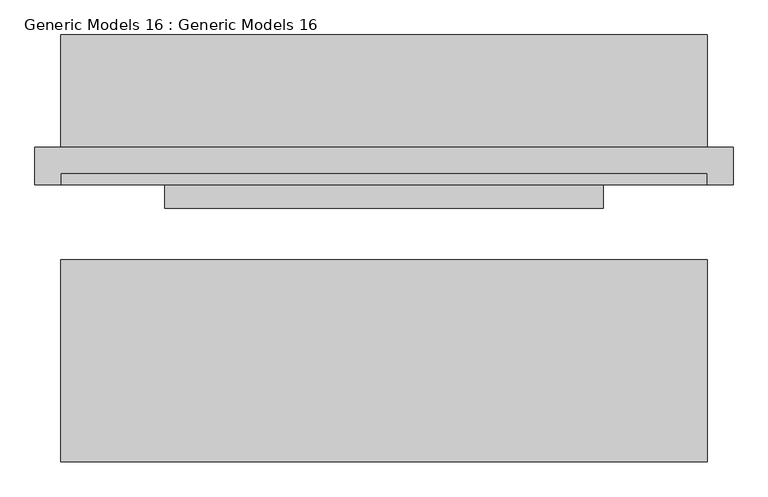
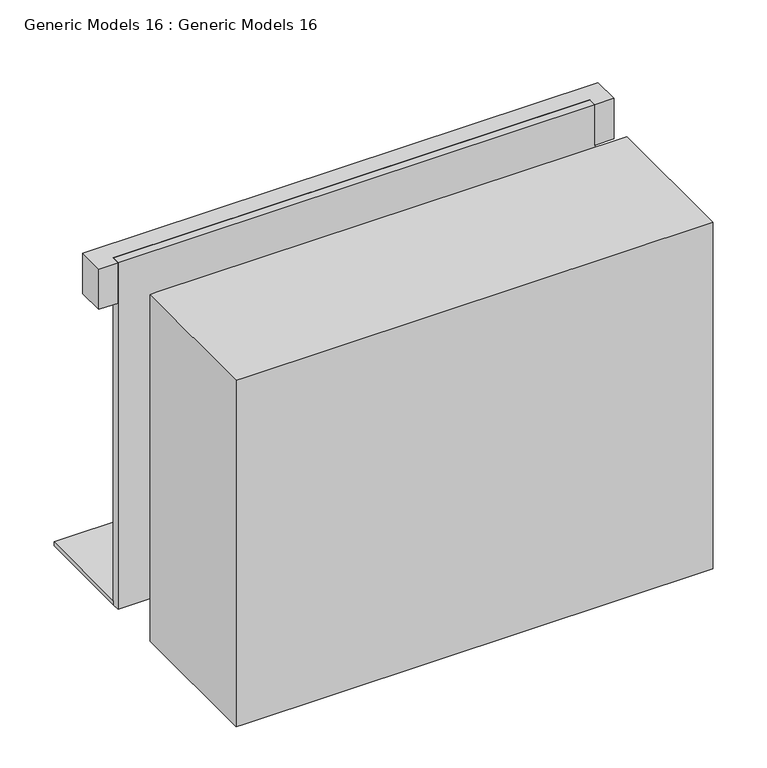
"""IFC4 building model written with IfcOpenShell, lengths in millimetres: proxy geometry, Generic Models 16 : Generic Models 16."""

import ifcopenshell
import ifcopenshell.guid

model = None  # the IFC model being written
_history = None  # IfcOwnerHistory: only IFC2X3 demands one
_inside = {}  # id of a spatial element -> (the spatial element, [elements in it])
_under = {}  # id of a project, library or spatial element -> (it, [spatial elements below it])
_declared = {}  # id of a project -> (the project, [libraries it declares])
_typed = {}  # id of a type object -> (the type object, [elements of that type])
_made_of = {}  # id of a material, layer set ... -> (it, [elements and type objects made of it])


def new_model(schema):
    """Start an empty IFC model of exactly this schema.

    Asked for "IFC4X3", IfcOpenShell would pick the latest addendum, in which some entities
    have other attributes; the version numbers below select the first issue.
    IFC2X3 requires an IfcOwnerHistory on every rooted entity: one is made here for all.
    """
    global model, _history
    if schema == "IFC4X3":
        model = ifcopenshell.file(schema_version=(4, 3, 0, 0))
    else:
        model = ifcopenshell.file(schema=schema)
    _inside.clear()
    _under.clear()
    _declared.clear()
    _typed.clear()
    _made_of.clear()
    _history = None
    if model.schema == "IFC2X3":
        org = make("IfcOrganization", Name="unknown")
        user = make(
            "IfcPersonAndOrganization",
            ThePerson=make("IfcPerson", FamilyName="unknown"),
            TheOrganization=org,
        )
        app = make(
            "IfcApplication",
            ApplicationDeveloper=org,
            Version="unknown",
            ApplicationFullName="unknown",
            ApplicationIdentifier="unknown",
        )
        _history = make(
            "IfcOwnerHistory",
            OwningUser=user,
            OwningApplication=app,
            ChangeAction="ADDED",
            CreationDate=0,
        )
    return model


def make(cls, **values):
    """One entity of the class cls with the attributes given. An attribute that is None is left unset."""
    return model.create_entity(
        cls, **{name: value for name, value in values.items() if value is not None}
    )


def rooted(cls, **values):
    """An entity with a GlobalId (a new one), such as an element, a storey or a relation."""
    return make(cls, GlobalId=ifcopenshell.guid.new(), OwnerHistory=_history, **values)


def si_unit(unit_type, name, prefix=None):
    """IfcSIUnit, for example si_unit("LENGTHUNIT", "METRE", prefix="MILLI")."""
    return make("IfcSIUnit", UnitType=unit_type, Prefix=prefix, Name=name)


def assignment(units):
    """IfcUnitAssignment: the units of a project."""
    return None if units is None else make("IfcUnitAssignment", Units=units)


def point(xyz):
    """IfcCartesianPoint."""
    return None if xyz is None else make("IfcCartesianPoint", Coordinates=xyz)


def direction(xyz):
    """IfcDirection."""
    return None if xyz is None else make("IfcDirection", DirectionRatios=xyz)


def frame(location, z_axis=None, x_axis=None):
    """IfcAxis2Placement3D, a coordinate frame: its origin and axes. An axis left out is left unset."""
    return make(
        "IfcAxis2Placement3D",
        Location=point(location),
        Axis=direction(z_axis),
        RefDirection=direction(x_axis),
    )


def origin():
    """The frame at (0, 0, 0) with its axes left unset."""
    return frame((0.0, 0.0, 0.0))


def place(relative_to, where):
    """IfcLocalPlacement: puts the frame where relative to a parent placement (None: the world)."""
    return make(
        "IfcLocalPlacement", PlacementRelTo=relative_to, RelativePlacement=where
    )


def context(
    kind, dimensions, precision=None, world=None, true_north=None, identifier=None
):
    """IfcGeometricRepresentationContext, for example the 3D "Model" context."""
    return make(
        "IfcGeometricRepresentationContext",
        ContextIdentifier=identifier,
        ContextType=kind,
        CoordinateSpaceDimension=dimensions,
        Precision=precision,
        WorldCoordinateSystem=world,
        TrueNorth=true_north,
    )


def project(units=None, contexts=None):
    """IfcProject with its units and contexts."""
    return rooted(
        "IfcProject",
        Name="project",
        RepresentationContexts=contexts,
        UnitsInContext=assignment(units),
    )


def spatial(cls, under=None, at=None, **own):
    """A site, building, storey or space (cls), placed at a placement, below another one or the project."""
    s = rooted(cls, ObjectPlacement=at, **own)
    if under is not None:
        _under.setdefault(under.id(), (under, []))[1].append(s)
    return s


def polyline(points):
    """IfcPolyline through the points."""
    return make("IfcPolyline", Points=[point(p) for p in points])


def outline(outer, holes=None, kind="AREA"):
    """IfcArbitraryClosedProfileDef: a profile drawn as a closed curve; with holes, ...WithVoids."""
    if holes is None:
        return make("IfcArbitraryClosedProfileDef", ProfileType=kind, OuterCurve=outer)
    return make(
        "IfcArbitraryProfileDefWithVoids",
        ProfileType=kind,
        OuterCurve=outer,
        InnerCurves=holes,
    )


def extrude(swept, where, along, depth):
    """IfcExtrudedAreaSolid: the profile swept, set in the frame where, extruded along a direction by depth."""
    return make(
        "IfcExtrudedAreaSolid",
        SweptArea=swept,
        Position=where,
        ExtrudedDirection=direction(along),
        Depth=depth,
    )


def faces_of(points, faces, orient=None, outer=None):
    """IfcFace entities. A face is a list of loops; a loop is a list of indices into points, from 0.

    orient and outer hold one flag for each loop. By default every Orientation is true, the
    first loop of a face is its IfcFaceOuterBound and the others are IfcFaceBound.
    """
    made = []
    for i, loops in enumerate(faces):
        bounds = []
        for j, loop in enumerate(loops):
            is_outer = j == 0 if outer is None else outer[i][j]
            bounds.append(
                make(
                    "IfcFaceOuterBound" if is_outer else "IfcFaceBound",
                    Bound=make("IfcPolyLoop", Polygon=[points[k] for k in loop]),
                    Orientation=True if orient is None else orient[i][j],
                )
            )
        made.append(make("IfcFace", Bounds=bounds))
    return made


def faceted_brep(points, faces, orient=None, outer=None, voids=None):
    """IfcFacetedBrep: a solid bounded by flat faces; with voids (closed shells), ...WithVoids."""
    shared = [point(p) for p in points]
    hull = make("IfcClosedShell", CfsFaces=faces_of(shared, faces, orient, outer))
    if voids is None:
        return make("IfcFacetedBrep", Outer=hull)
    return make(
        "IfcFacetedBrepWithVoids",
        Outer=hull,
        Voids=[
            make(cls, CfsFaces=faces_of(shared, fs, o, b)) for cls, fs, o, b in voids
        ],
    )


def shape(context_of_items, identifier, shape_type, items):
    """IfcShapeRepresentation: the items that make up one representation, for example the "Body"."""
    return make(
        "IfcShapeRepresentation",
        ContextOfItems=context_of_items,
        RepresentationIdentifier=identifier,
        RepresentationType=shape_type,
        Items=items,
    )


def source(mapping_origin, context_of_items, identifier, shape_type, items):
    """IfcRepresentationMap: a shape defined once, which mapped items show again and again."""
    return make(
        "IfcRepresentationMap",
        MappingOrigin=mapping_origin,
        MappedRepresentation=shape(context_of_items, identifier, shape_type, items),
    )


def transform(
    local_origin,
    x_axis=None,
    y_axis=None,
    z_axis=None,
    scale=None,
    scale2=None,
    scale3=None,
    uniform=True,
):
    """IfcCartesianTransformationOperator3D, or its non-uniform kind. x_axis, y_axis, z_axis: its Axis1, 2, 3."""
    if uniform:
        return make(
            "IfcCartesianTransformationOperator3D",
            Axis1=direction(x_axis),
            Axis2=direction(y_axis),
            LocalOrigin=point(local_origin),
            Scale=scale,
            Axis3=direction(z_axis),
        )
    return make(
        "IfcCartesianTransformationOperator3DnonUniform",
        Axis1=direction(x_axis),
        Axis2=direction(y_axis),
        LocalOrigin=point(local_origin),
        Scale=scale,
        Axis3=direction(z_axis),
        Scale2=scale2,
        Scale3=scale3,
    )


def mapped(mapping_source, mapping_target):
    """IfcMappedItem: shows the shape of a source again, moved by a transform."""
    return make(
        "IfcMappedItem", MappingSource=mapping_source, MappingTarget=mapping_target
    )


def made_of(thing, what):
    """Note that an element or type object is made of a material, layer set ...; save() writes the relation."""
    if what is not None:
        _made_of.setdefault(what.id(), (what, []))[1].append(thing)
    return thing


def element(
    cls,
    number,
    at=None,
    inside=None,
    cuts=None,
    type_object=None,
    material=None,
    context=None,
    identifier="Body",
    shape_type=None,
    held_by="IfcProductDefinitionShape",
    body=None,
    shapes=None,
    **own,
):
    """One element of the class cls, such as IfcWall. Its Tag is "e" and its number.

    at: its placement. inside: the storey or other place that contains it. cuts: it is an
    opening in that element (IfcRelVoidsElement). A single representation is given by context,
    identifier, shape_type and body (its items); several are given by shapes. held_by: the class
    of the entity that holds the representations. save() writes the other relations.
    """
    e = rooted(cls, Tag="e%d" % number, ObjectPlacement=at, **own)
    if body is not None:
        shapes = [shape(context, identifier, shape_type, body)]
    if shapes is not None:
        e.Representation = make(held_by, Representations=shapes)
    if inside is not None:
        _inside.setdefault(inside.id(), (inside, []))[1].append(e)
    if cuts is not None:
        rooted(
            "IfcRelVoidsElement", RelatingBuildingElement=cuts, RelatedOpeningElement=e
        )
    if type_object is not None:
        _typed.setdefault(type_object.id(), (type_object, []))[1].append(e)
    return made_of(e, material)


def aggregate(whole, parts):
    """IfcRelAggregates: a whole, such as a stair, and the parts it consists of."""
    return rooted("IfcRelAggregates", RelatingObject=whole, RelatedObjects=parts)


def save(model, path):
    """Write the relations noted so far, then the file.

    IfcRelAggregates (storeys below a building ...), IfcRelContainedInSpatialStructure (elements
    in a storey), IfcRelDefinesByType, IfcRelAssociatesMaterial and IfcRelDeclares: one each for
    every whole, place, type object, material and project.
    """
    for whole, parts in _under.values():
        aggregate(whole, parts)
    for where, things in _inside.values():
        rooted(
            "IfcRelContainedInSpatialStructure",
            RelatedElements=things,
            RelatingStructure=where,
        )
    for kind, things in _typed.values():
        rooted("IfcRelDefinesByType", RelatedObjects=things, RelatingType=kind)
    for what, things in _made_of.values():
        rooted("IfcRelAssociatesMaterial", RelatedObjects=things, RelatingMaterial=what)
    for by, libraries in _declared.values():
        rooted("IfcRelDeclares", RelatingContext=by, RelatedDefinitions=libraries)
    model.write(path)


def generic_models_16_generic_models_16_c4cf1f47(model_context):
    return source(origin(), model_context, "Body", "SolidModel", [
        extrude(outline(polyline([(-3568.6966234, 9626.6), (-3625.8466234, 9626.6), (-3625.8466234, 9652.0), (-5048.2466234, 9652.0), (-5048.2466234, 9626.6), (-5105.3966234, 9626.6), (-5105.3966234, 9709.15), (-3568.6966234, 9709.15), (-3568.6966234, 9626.6)])), frame((0.0, 0.0, 4216.4), z_axis=(0.0, 0.0, 1.0), x_axis=(1.0, 0.0, 0.0)), (0.0, 0.0, 1.0), 127.0),
        extrude(outline(polyline([(-5048.2466234, 9652.0), (-5048.2466234, 9956.8), (-3625.8466234, 9956.8), (-3625.8466234, 9652.0), (-5048.2466234, 9652.0)])), frame((0.0, 0.0, 3251.2), z_axis=(0.0, 0.0, 1.0), x_axis=(1.0, 0.0, 0.0)), (0.0, 0.0, 1.0), 12.7),
        extrude(outline(polyline([(-4768.8466234, 9607.55), (-3905.2466234, 9607.55), (-3905.2466234, 9594.85), (-4768.8466234, 9594.85), (-4768.8466234, 9607.55)])), frame((0.0, 0.0, 3378.2), z_axis=(0.0, 0.0, 1.0), x_axis=(1.0, 0.0, 0.0)), (0.0, 0.0, 1.0), 539.75),
        extrude(outline(polyline([(4019.55, -4819.6466234), (3295.65, -4819.6466234), (3295.65, -3854.4466234), (4019.55, -3854.4466234), (4019.55, -4819.6466234)]), holes=[polyline([(3917.95, -3905.2466234), (3378.2, -3905.2466234), (3378.2, -4768.8466234), (3917.95, -4768.8466234), (3917.95, -3905.2466234)])]), frame((0.0, 9575.8, 0.0), z_axis=(0.0, 1.0, 0.0), x_axis=(0.0, 0.0, 1.0)), (0.0, 0.0, 1.0), 50.8),
        faceted_brep([(-3625.8466234, 9017.0, 4343.4), (-5029.2, 9017.0, 4343.4), (-5048.2466234, 9017.0, 4343.4), (-5048.2466234, 9017.0, 3251.2), (-5029.2, 9017.0, 3251.2), (-3625.8466234, 9017.0, 3251.2), (-3625.8466234, 9461.5, 4343.4), (-3625.8466234, 9461.5, 3251.2), (-5029.2, 9461.5, 3251.2), (-5048.2466234, 9461.5, 3251.2), (-5048.2466234, 9461.5, 4343.4), (-5029.2, 9461.5, 4343.4), (-3854.4466234, 9461.5, 3295.65), (-3854.4466234, 9461.5, 4019.55), (-4819.6466234, 9461.5, 4019.55), (-4819.6466234, 9461.5, 3295.65), (-3854.4466234, 9415.9772172, 3295.65), (-4819.6466234, 9415.9772172, 3295.65), (-4819.6466234, 9415.9772172, 4019.55), (-3854.4466234, 9415.9772172, 4019.55)], [[[0, 1, 2, 3, 4, 5]], [[6, 7, 8, 9, 10, 11], [12, 13, 14, 15]], [[0, 5, 7, 6]], [[5, 4, 3, 9, 8, 7]], [[3, 2, 10, 9]], [[2, 1, 0, 6, 11, 10]], [[16, 17, 18, 19]], [[16, 19, 13, 12]], [[19, 18, 14, 13]], [[18, 17, 15, 14]], [[17, 16, 12, 15]]]),
        extrude(outline(polyline([(3251.2, -3625.8466234), (4343.4, -3625.8466234), (4343.4, -5048.2466234), (3251.2, -5048.2466234), (3251.2, -3625.8466234)]), holes=[polyline([(3295.65, -3854.4466234), (3295.65, -4819.6466234), (4019.55, -4819.6466234), (4019.55, -3854.4466234), (3295.65, -3854.4466234)])]), frame((0.0, 9626.6, 0.0), z_axis=(0.0, 1.0, 0.0), x_axis=(0.0, 0.0, 1.0)), (0.0, 0.0, 1.0), 25.4),
    ])


if __name__ == "__main__":
    model = new_model("IFC4")
    model_context = context("Model", 3, world=origin())
    ifc_project = project(units=[si_unit("LENGTHUNIT", "METRE", prefix="MILLI")], contexts=[model_context])
    site = spatial("IfcSite", under=ifc_project)
    building = spatial("IfcBuilding", under=site)
    placement = place(None, origin())
    generic_models_16_generic_models_16_shape = generic_models_16_generic_models_16_c4cf1f47(model_context)
    element("IfcBuildingElementProxy", 1, Name="Generic Models 16 : Generic Models 16", ObjectType="Generic Models 16 : Generic Models 16", at=placement, inside=building, context=model_context, shape_type="MappedRepresentation", body=[
        mapped(generic_models_16_generic_models_16_shape, transform((0.0, 0.0, 0.0), x_axis=(1.0, 0.0, 0.0), y_axis=(0.0, 1.0, 0.0), z_axis=(0.0, 0.0, 1.0))),
    ])
    save(model, "model.ifc")
